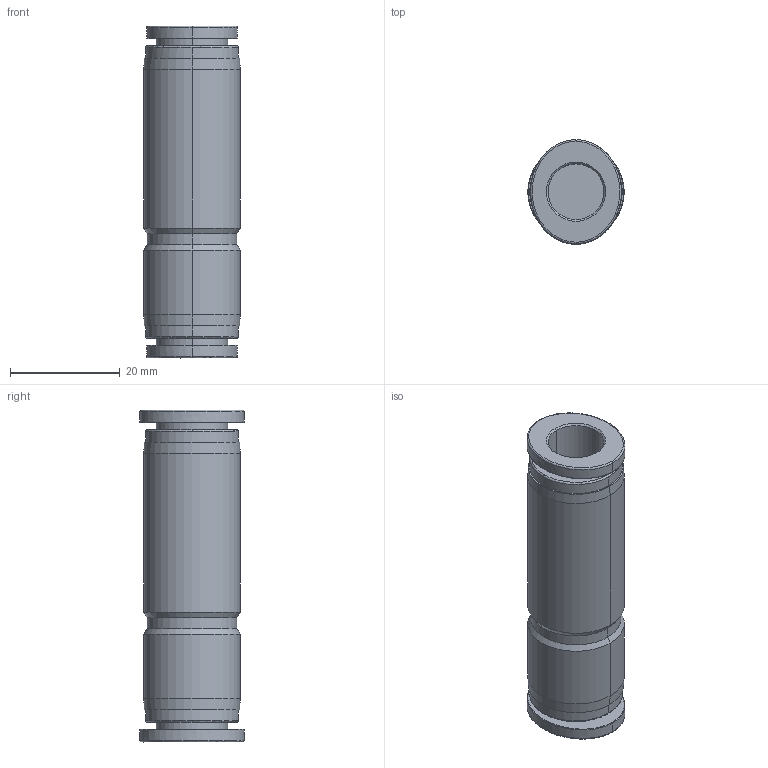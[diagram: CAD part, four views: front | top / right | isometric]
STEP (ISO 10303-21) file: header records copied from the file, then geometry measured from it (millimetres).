
FILE_DESCRIPTION((''),'2;1');
FILE_NAME('R412005550','2015-03-11T',('pma1hc'),(''),'PRO/ENGINEER BY PARAMETRIC TECHNOLOGY CORPORATION, 2009380','PRO/ENGINEER BY PARAMETRIC TECHNOLOGY CORPORATION, 2009380','');
FILE_SCHEMA(('CONFIG_CONTROL_DESIGN'));
Length unit declared in the file: millimetre
Products named in the file (1): R412005550
Bounding box: 17.6 x 19 x 60.6 mm (x, y, z)
Volume: 10840.2 mm3; surface area: 5548.2 mm2
Topology: 1 solids, 1 shells, 56 faces, 120 edges, 74 vertices
Faces by surface type: cylinder 18, cone 12, plane 10, bspline 8, torus 4, extrusion 4
Entity records: 3861 total; most frequent: CARTESIAN_POINT 2614, DIRECTION 248, ORIENTED_EDGE 240, EDGE_CURVE 120, AXIS2_PLACEMENT_3D 106, VERTEX_POINT 74, EDGE_LOOP 64, CIRCLE 62
